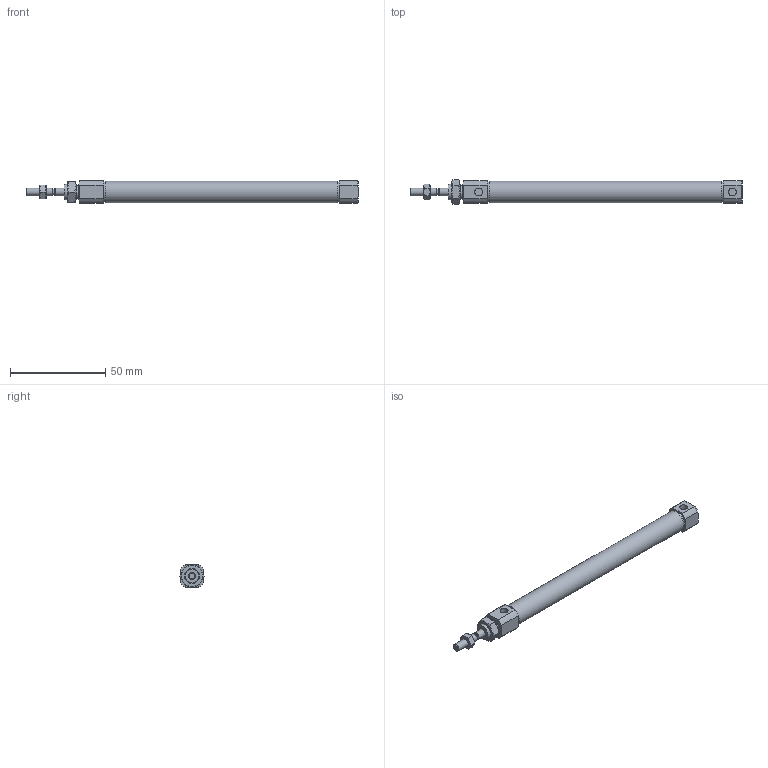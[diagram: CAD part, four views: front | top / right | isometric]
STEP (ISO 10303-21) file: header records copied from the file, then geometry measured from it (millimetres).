
FILE_DESCRIPTION((''),'2;1');
FILE_NAME('I:\3D電子目錄\氣缸\SBA\SBA\SBA10\SBA10x100.stp','2007-10-04T11:41:53',('66-2f-008'),(''),'Autodesk Inventor 11','Autodesk Inventor 11','');
FILE_SCHEMA(('AUTOMOTIVE_DESIGN { 1 0 10303 214 1 1 1 1 }'));
Length unit declared in the file: millimetre
Products named in the file (1): SBA10
Bounding box: 174 x 12.7 x 12 mm (x, y, z)
Volume: 16149.9 mm3; surface area: 6567.7 mm2
Topology: 1 solids, 1 shells, 88 faces, 186 edges, 113 vertices
Faces by surface type: plane 35, cone 30, cylinder 18, bspline 5
Full cylindrical faces by diameter (mm): 3.2 x1, 4 x3, 8 x3, 10.7 x2, 11.3 x1
Entity records: 2337 total; most frequent: CARTESIAN_POINT 609, DIRECTION 352, ORIENTED_EDGE 342, EDGE_CURVE 171, AXIS2_PLACEMENT_3D 153, EDGE_LOOP 116, VERTEX_POINT 113, FACE_OUTER_BOUND 88
